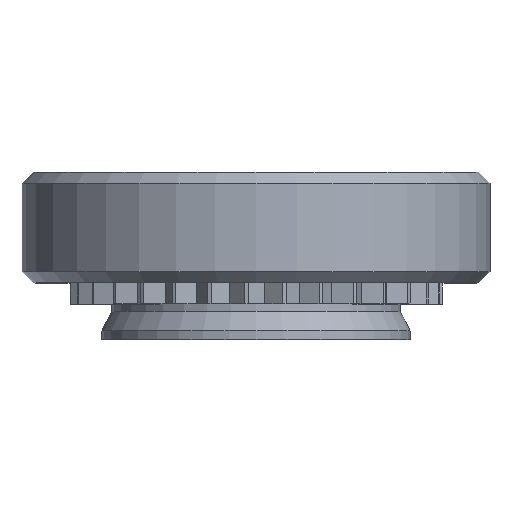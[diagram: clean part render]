
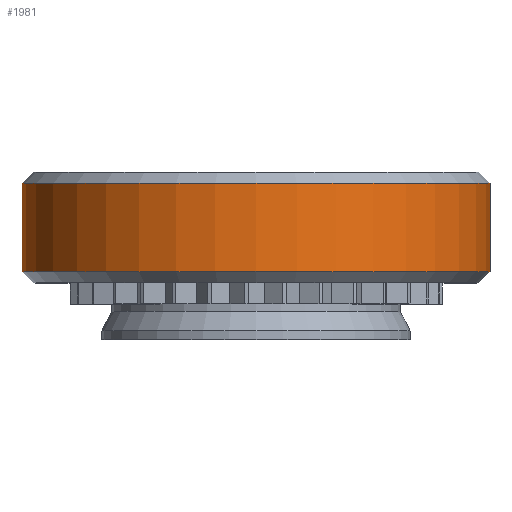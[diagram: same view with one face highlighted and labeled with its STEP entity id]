
A CAD part, top view. The second image highlights one B-rep face of the part: STEP entity #1981.
In plain terms, the highlighted cylindrical face has radius 3.175 mm (diameter 6.35 mm), a full revolution.
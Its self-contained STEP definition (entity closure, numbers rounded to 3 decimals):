
#85=CYLINDRICAL_SURFACE('',#2113,3.175);
#121=FACE_OUTER_BOUND('',#227,.T.);
#227=EDGE_LOOP('',(#1374,#1375,#1376,#1377,#1378,#1379));
#337=LINE('',#2897,#563);
#563=VECTOR('',#2305,3.175);
#789=CIRCLE('',#2111,3.175);
#790=CIRCLE('',#2112,3.175);
#791=CIRCLE('',#2114,3.175);
#792=CIRCLE('',#2115,3.175);
#866=VERTEX_POINT('',#2890);
#867=VERTEX_POINT('',#2892);
#868=VERTEX_POINT('',#2896);
#869=VERTEX_POINT('',#2898);
#1068=EDGE_CURVE('',#866,#867,#789,.T.);
#1069=EDGE_CURVE('',#867,#866,#790,.T.);
#1070=EDGE_CURVE('',#867,#868,#337,.T.);
#1071=EDGE_CURVE('',#869,#868,#791,.T.);
#1072=EDGE_CURVE('',#868,#869,#792,.T.);
#1374=ORIENTED_EDGE('',*,*,#1068,.F.);
#1375=ORIENTED_EDGE('',*,*,#1069,.F.);
#1376=ORIENTED_EDGE('',*,*,#1070,.T.);
#1377=ORIENTED_EDGE('',*,*,#1071,.F.);
#1378=ORIENTED_EDGE('',*,*,#1072,.F.);
#1379=ORIENTED_EDGE('',*,*,#1070,.F.);
#1981=ADVANCED_FACE('',(#121),#85,.T.);
#2111=AXIS2_PLACEMENT_3D('',#2893,#2299,#2300);
#2112=AXIS2_PLACEMENT_3D('',#2894,#2301,#2302);
#2113=AXIS2_PLACEMENT_3D('',#2895,#2303,#2304);
#2114=AXIS2_PLACEMENT_3D('',#2899,#2306,#2307);
#2115=AXIS2_PLACEMENT_3D('',#2900,#2308,#2309);
#2299=DIRECTION('center_axis',(0.,1.,0.));
#2300=DIRECTION('ref_axis',(1.,0.,0.));
#2301=DIRECTION('center_axis',(0.,1.,0.));
#2302=DIRECTION('ref_axis',(1.,0.,0.));
#2303=DIRECTION('center_axis',(0.,1.,0.));
#2304=DIRECTION('ref_axis',(-1.,0.,0.));
#2305=DIRECTION('',(0.,-1.,0.));
#2306=DIRECTION('center_axis',(0.,-1.,0.));
#2307=DIRECTION('ref_axis',(1.,0.,0.));
#2308=DIRECTION('center_axis',(0.,-1.,0.));
#2309=DIRECTION('ref_axis',(1.,0.,0.));
#2890=CARTESIAN_POINT('',(-3.175,2.12,0.));
#2892=CARTESIAN_POINT('',(3.175,2.12,0.));
#2893=CARTESIAN_POINT('Origin',(0.,2.12,0.));
#2894=CARTESIAN_POINT('Origin',(0.,2.12,0.));
#2895=CARTESIAN_POINT('Origin',(0.,1.52,0.));
#2896=CARTESIAN_POINT('',(3.175,0.92,0.));
#2897=CARTESIAN_POINT('',(3.175,1.52,0.));
#2898=CARTESIAN_POINT('',(-3.175,0.92,0.));
#2899=CARTESIAN_POINT('Origin',(0.,0.92,
0.));
#2900=CARTESIAN_POINT('Origin',(0.,0.92,
0.));
